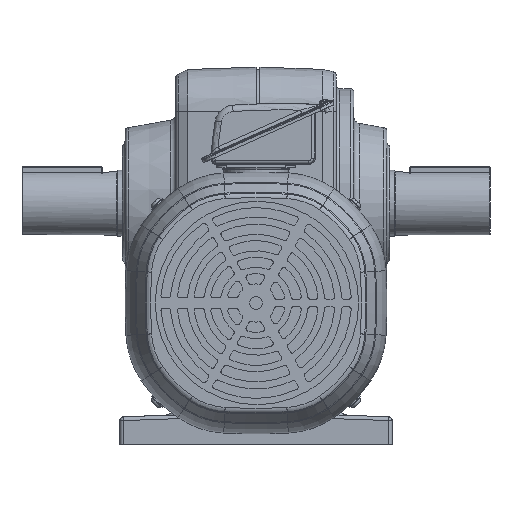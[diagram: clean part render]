
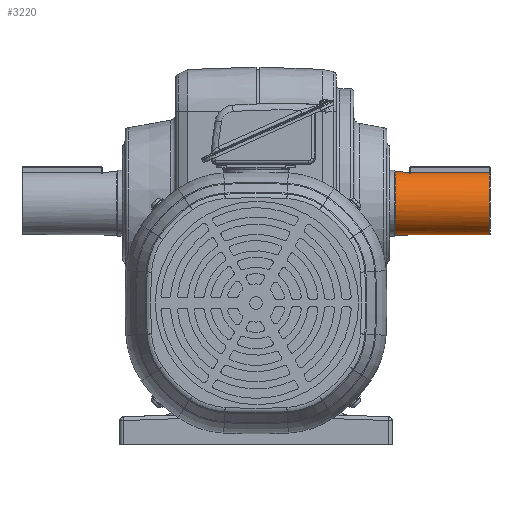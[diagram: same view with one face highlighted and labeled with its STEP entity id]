
A CAD part, left-side view. The second image highlights one B-rep face of the part: STEP entity #3220.
In plain terms, the highlighted cylindrical face has radius 25 mm (diameter 50 mm), a full revolution.
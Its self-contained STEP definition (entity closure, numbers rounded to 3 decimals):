
#3220 = ADVANCED_FACE( '', ( #8129, #8130 ), #8131, .T. );
#8129 = FACE_OUTER_BOUND( '', #21037, .T. );
#8130 = FACE_OUTER_BOUND( '', #21038, .T. );
#8131 = CYLINDRICAL_SURFACE( '', #21039, 25. );
#21037 = EDGE_LOOP( '', ( #51358 ) );
#21038 = EDGE_LOOP( '', ( #51359, #51360, #51361, #51362, #51363, #51364 ) );
#21039 = AXIS2_PLACEMENT_3D( '', #51365, #51366, #51367 );
#51358 = ORIENTED_EDGE( '', *, *, #65515, .T. );
#51359 = ORIENTED_EDGE( '', *, *, #67455, .F. );
#51360 = ORIENTED_EDGE( '', *, *, #66065, .T. );
#51361 = ORIENTED_EDGE( '', *, *, #65898, .T. );
#51362 = ORIENTED_EDGE( '', *, *, #67456, .F. );
#51363 = ORIENTED_EDGE( '', *, *, #67457, .F. );
#51364 = ORIENTED_EDGE( '', *, *, #67458, .F. );
#51365 = CARTESIAN_POINT( '', ( 82.71, -203.5, -13.536 ) );
#51366 = DIRECTION( '', ( 0., -1., 0. ) );
#51367 = DIRECTION( '', ( 0., 0., 1. ) );
#65515 = EDGE_CURVE( '', #73012, #73012, #73013, .T. );
#65898 = EDGE_CURVE( '', #73676, #73463, #73677, .T. );
#66065 = EDGE_CURVE( '', #73957, #73676, #73958, .F. );
#67455 = EDGE_CURVE( '', #73957, #76236, #76237, .T. );
#67456 = EDGE_CURVE( '', #76238, #73463, #76239, .F. );
#67457 = EDGE_CURVE( '', #76240, #76238, #76241, .T. );
#67458 = EDGE_CURVE( '', #76236, #76240, #76242, .T. );
#73012 = VERTEX_POINT( '', #84681 );
#73013 = CIRCLE( '', #84682, 25. );
#73463 = VERTEX_POINT( '', #85831 );
#73676 = VERTEX_POINT( '', #86362 );
#73677 = LINE( '', #86363, #86364 );
#73957 = VERTEX_POINT( '', #87081 );
#73958 = CIRCLE( '', #87082, 25. );
#76236 = VERTEX_POINT( '', #93682 );
#76237 = LINE( '', #93683, #93684 );
#76238 = VERTEX_POINT( '', #93685 );
#76239 = LINE( '', #93686, #93687 );
#76240 = VERTEX_POINT( '', #93688 );
#76241 = B_SPLINE_CURVE_WITH_KNOTS( '', 3, ( #93689, #93690, #93691, #93692, #93693, #93694, #93695, #93696, #93697, #93698, #93699, #93700, #93701, #93702, #93703, #93704, #93705, #93706, #93707, #93708, #93709, #93710, #93711, #93712, #93713, #93714, #93715, #93716, #93717, #93718, #93719, #93720, #93721, #93722, #93723, #93724, #93725, #93726, #93727, #93728, #93729, #93730, #93731, #93732, #93733, #93734 ), .UNSPECIFIED., .F., .F., ( 4, 2, 2, 2, 2, 2, 2, 2, 2, 2, 2, 2, 2, 2, 2, 2, 2, 2, 2, 2, 2, 2, 4 ), ( 0., 0.001, 0.002, 0.003, 0.004, 0.005, 0.005, 0.007, 0.008, 0.009, 0.01, 0.011, 0.012, 0.014, 0.014, 0.015, 0.016, 0.016, 0.018, 0.019, 0.021, 0.021, 0.022 ), .UNSPECIFIED. );
#76242 = LINE( '', #93735, #93736 );
#84681 = CARTESIAN_POINT( '', ( 82.71, -216.4, -38.536 ) );
#84682 = AXIS2_PLACEMENT_3D( '', #110937, #110938, #110939 );
#85831 = CARTESIAN_POINT( '', ( 75.71, -228.1, 10.464 ) );
#86362 = CARTESIAN_POINT( '', ( 75.71, -290.6, 10.464 ) );
#86363 = CARTESIAN_POINT( '', ( 75.71, -203.5, 10.464 ) );
#86364 = VECTOR( '', #111517, 1000. );
#87081 = CARTESIAN_POINT( '', ( 89.71, -290.6, 10.464 ) );
#87082 = AXIS2_PLACEMENT_3D( '', #111741, #111742, #111743 );
#93682 = CARTESIAN_POINT( '', ( 89.71, -228.1, 10.464 ) );
#93683 = CARTESIAN_POINT( '', ( 89.71, -203.5, 10.464 ) );
#93684 = VECTOR( '', #113704, 1000. );
#93685 = CARTESIAN_POINT( '', ( 75.71, -228., 10.464 ) );
#93686 = CARTESIAN_POINT( '', ( 75.71, -203.5, 10.464 ) );
#93687 = VECTOR( '', #113705, 1000. );
#93688 = CARTESIAN_POINT( '', ( 89.71, -228., 10.464 ) );
#93689 = CARTESIAN_POINT( '', ( 89.71, -228., 10.464 ) );
#93690 = CARTESIAN_POINT( '', ( 89.71, -227.535, 10.464 ) );
#93691 = CARTESIAN_POINT( '', ( 89.664, -227.079, 10.478 ) );
#93692 = CARTESIAN_POINT( '', ( 89.53, -226.405, 10.516 ) );
#93693 = CARTESIAN_POINT( '', ( 89.474, -226.183, 10.532 ) );
#93694 = CARTESIAN_POINT( '', ( 89.34, -225.742, 10.569 ) );
#93695 = CARTESIAN_POINT( '', ( 89.261, -225.524, 10.59 ) );
#93696 = CARTESIAN_POINT( '', ( 88.997, -224.889, 10.661 ) );
#93697 = CARTESIAN_POINT( '', ( 88.782, -224.488, 10.717 ) );
#93698 = CARTESIAN_POINT( '', ( 88.402, -223.919, 10.808 ) );
#93699 = CARTESIAN_POINT( '', ( 88.264, -223.733, 10.84 ) );
#93700 = CARTESIAN_POINT( '', ( 87.973, -223.38, 10.904 ) );
#93701 = CARTESIAN_POINT( '', ( 87.82, -223.211, 10.937 ) );
#93702 = CARTESIAN_POINT( '', ( 87.339, -222.729, 11.034 ) );
#93703 = CARTESIAN_POINT( '', ( 86.988, -222.44, 11.098 ) );
#93704 = CARTESIAN_POINT( '', ( 86.224, -221.929, 11.219 ) );
#93705 = CARTESIAN_POINT( '', ( 85.82, -221.713, 11.273 ) );
#93706 = CARTESIAN_POINT( '', ( 85.19, -221.45, 11.342 ) );
#93707 = CARTESIAN_POINT( '', ( 84.975, -221.373, 11.362 ) );
#93708 = CARTESIAN_POINT( '', ( 84.535, -221.238, 11.398 ) );
#93709 = CARTESIAN_POINT( '', ( 84.31, -221.181, 11.414 ) );
#93710 = CARTESIAN_POINT( '', ( 83.631, -221.046, 11.451 ) );
#93711 = CARTESIAN_POINT( '', ( 83.176, -221., 11.464 ) );
#93712 = CARTESIAN_POINT( '', ( 82.257, -221., 11.464 ) );
#93713 = CARTESIAN_POINT( '', ( 81.791, -221.045, 11.451 ) );
#93714 = CARTESIAN_POINT( '', ( 80.891, -221.225, 11.402 ) );
#93715 = CARTESIAN_POINT( '', ( 80.454, -221.358, 11.366 ) );
#93716 = CARTESIAN_POINT( '', ( 79.816, -221.622, 11.297 ) );
#93717 = CARTESIAN_POINT( '', ( 79.607, -221.721, 11.272 ) );
#93718 = CARTESIAN_POINT( '', ( 79.204, -221.937, 11.218 ) );
#93719 = CARTESIAN_POINT( '', ( 79.008, -222.054, 11.189 ) );
#93720 = CARTESIAN_POINT( '', ( 78.63, -222.307, 11.13 ) );
#93721 = CARTESIAN_POINT( '', ( 78.448, -222.442, 11.099 ) );
#93722 = CARTESIAN_POINT( '', ( 78.095, -222.732, 11.035 ) );
#93723 = CARTESIAN_POINT( '', ( 77.924, -222.887, 11.002 ) );
#93724 = CARTESIAN_POINT( '', ( 77.438, -223.372, 10.904 ) );
#93725 = CARTESIAN_POINT( '', ( 77.15, -223.722, 10.839 ) );
#93726 = CARTESIAN_POINT( '', ( 76.643, -224.478, 10.718 ) );
#93727 = CARTESIAN_POINT( '', ( 76.423, -224.888, 10.661 ) );
#93728 = CARTESIAN_POINT( '', ( 76.072, -225.731, 10.567 ) );
#93729 = CARTESIAN_POINT( '', ( 75.938, -226.168, 10.53 ) );
#93730 = CARTESIAN_POINT( '', ( 75.802, -226.844, 10.491 ) );
#93731 = CARTESIAN_POINT( '', ( 75.767, -227.075, 10.481 ) );
#93732 = CARTESIAN_POINT( '', ( 75.721, -227.536, 10.467 ) );
#93733 = CARTESIAN_POINT( '', ( 75.71, -227.768, 10.464 ) );
#93734 = CARTESIAN_POINT( '', ( 75.71, -228., 10.464 ) );
#93735 = CARTESIAN_POINT( '', ( 89.71, -203.5, 10.464 ) );
#93736 = VECTOR( '', #113706, 1000. );
#110937 = CARTESIAN_POINT( '', ( 82.71, -216.4, -13.536 ) );
#110938 = DIRECTION( '', ( 0., -1., 0. ) );
#110939 = DIRECTION( '', ( 0., 0., -1. ) );
#111517 = DIRECTION( '', ( 0., 1., 0. ) );
#111741 = CARTESIAN_POINT( '', ( 82.71, -290.6, -13.536 ) );
#111742 = DIRECTION( '', ( 0., -1., 0. ) );
#111743 = DIRECTION( '', ( 0., 0., -1. ) );
#113704 = DIRECTION( '', ( 0., 1., 0. ) );
#113705 = DIRECTION( '', ( 0., 1., 0. ) );
#113706 = DIRECTION( '', ( 0., 1., 0. ) );
